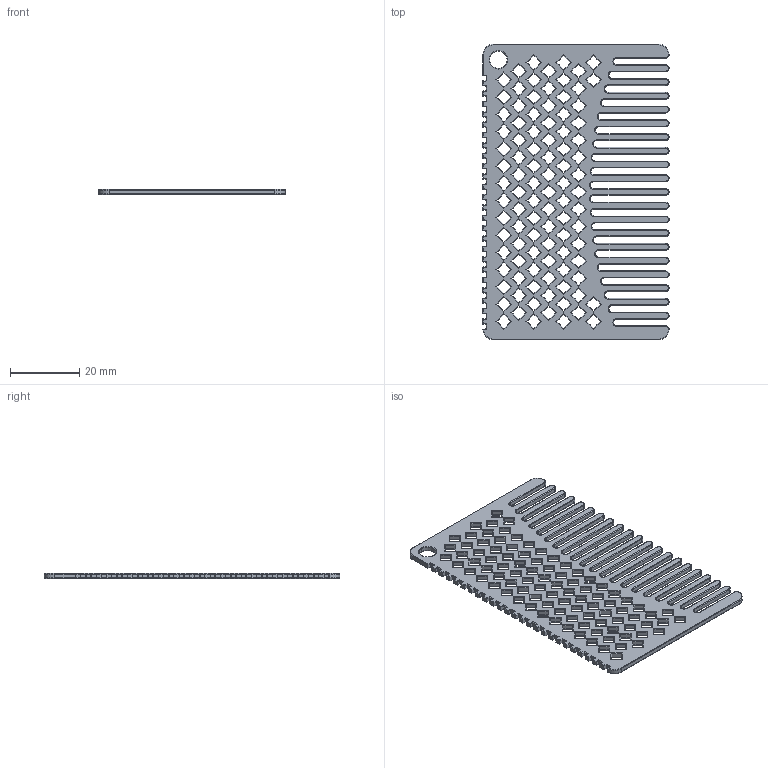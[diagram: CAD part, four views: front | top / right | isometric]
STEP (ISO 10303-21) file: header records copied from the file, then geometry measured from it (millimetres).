
FILE_DESCRIPTION (( 'STEP AP214' ), '1' );
FILE_NAME ('Credit Card Comb_4.STEP', '2023-07-21T14:40:39', ( '' ), ( '' ), 'SwSTEP 2.0', 'SolidWorks 2018', '' );
FILE_SCHEMA (( 'AUTOMOTIVE_DESIGN' ));
Products named in the file (1): Credit Card Comb_4
Bounding box: 53.98 x 85.6 x 1.5 mm (x, y, z)
Volume: 4436.7 mm3; surface area: 8895.8 mm2
Topology: 1 solids, 1 shells, 1784 faces, 4158 edges, 2376 vertices
Faces by surface type: cylinder 1121, plane 529, torus 134
Entity records: 49130 total; most frequent: CARTESIAN_POINT 11429, ORIENTED_EDGE 8316, DIRECTION 7166, EDGE_CURVE 4158, VECTOR 2700, LINE 2700, VERTEX_POINT 2376, AXIS2_PLACEMENT_3D 2233
